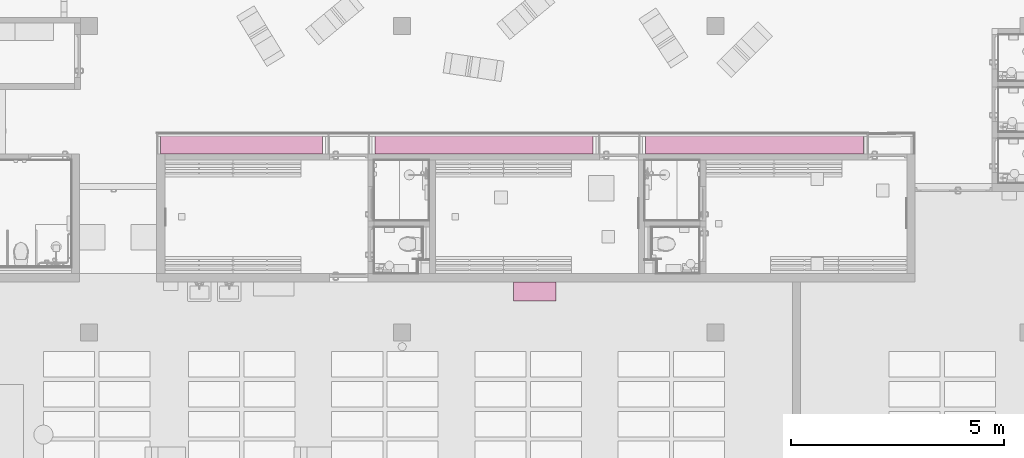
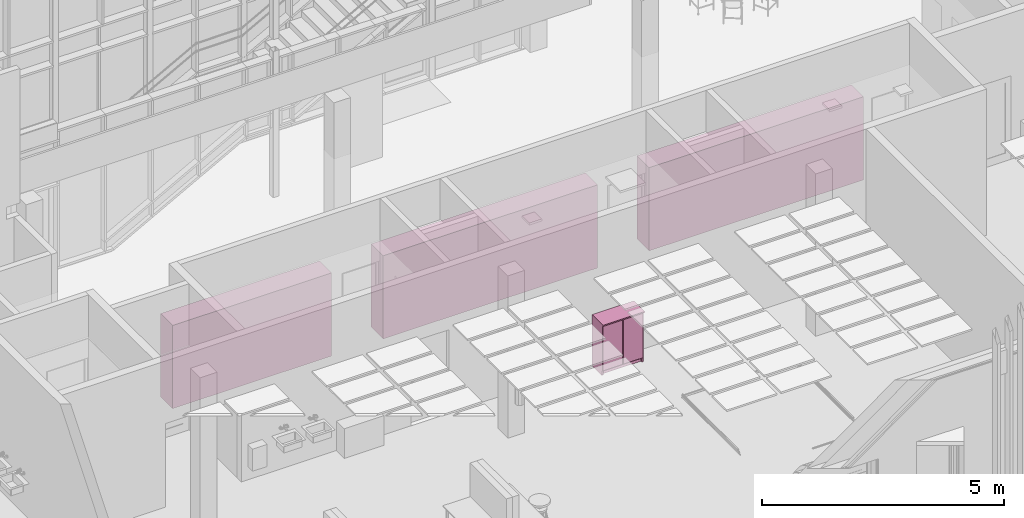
# One storey, part 282 of 301: 4 furnishings.
"""IFC2X3 building model written with IfcOpenShell, lengths in millimetres."""

from ifc_helpers import new_model, entity, si_unit, converted_unit, derived_unit, money_unit, direction, frame, origin_with_axes, place, context, subcontext, project, spatial, faceted_brep, material, type_object, element, save


model = new_model("IFC2X3")

# Units and contexts
model_context = context("Model", 3, precision=0.01, world=origin_with_axes(), true_north=direction((0.0, 1.0)))
body_context = subcontext(model_context, "Body", "Model", "MODEL_VIEW")
ifc_project = project(units=[si_unit("LENGTHUNIT", "METRE", prefix="MILLI"), si_unit("AREAUNIT", "SQUARE_METRE"), si_unit("VOLUMEUNIT", "CUBIC_METRE"), converted_unit("PLANEANGLEUNIT", "DEGREE", entity("IfcPlaneAngleMeasure", 0.0174532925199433), si_unit("PLANEANGLEUNIT", "RADIAN"), dimensions=[0, 0, 0, 0, 0, 0, 0]), money_unit("EUR"), converted_unit("TIMEUNIT", "Year", entity("IfcTimeMeasure", 31557600.0), si_unit("TIMEUNIT", "SECOND"), dimensions=[0, 0, 1, 0, 0, 0, 0]), si_unit("MASSUNIT", "GRAM", prefix="KILO"), si_unit("THERMODYNAMICTEMPERATUREUNIT", "DEGREE_CELSIUS"), si_unit("LUMINOUSINTENSITYUNIT", "LUMEN"), si_unit("ENERGYUNIT", "JOULE", prefix="MEGA"), derived_unit("THERMALCONDUCTANCEUNIT", [(si_unit("POWERUNIT", "WATT"), 1), (si_unit("LENGTHUNIT", "METRE"), -1), (si_unit("THERMODYNAMICTEMPERATUREUNIT", "KELVIN"), -1)]), derived_unit("SPECIFICHEATCAPACITYUNIT", [(si_unit("ENERGYUNIT", "JOULE"), 1), (si_unit("MASSUNIT", "GRAM", prefix="KILO"), -1), (si_unit("THERMODYNAMICTEMPERATUREUNIT", "KELVIN"), -1)]), derived_unit("MASSDENSITYUNIT", [(si_unit("MASSUNIT", "GRAM", prefix="KILO"), 1), (si_unit("VOLUMEUNIT", "CUBIC_METRE"), -1)])], contexts=[model_context])

# Site, building, storey
site_placement = place(None, frame((0.0, 0.0, 8650.0), z_axis=(0.0, 0.0, 1.0), x_axis=(1.0, 0.0, 0.0)))
site = spatial("IfcSite", under=ifc_project, at=site_placement, Name="43301:001:0844", CompositionType="ELEMENT")
building_placement = place(site_placement, origin_with_axes())
building = spatial("IfcBuilding", under=site, at=building_placement, Name="Kuressaare Ametikooli tuulikute mehaanikute õppekorpus", CompositionType="ELEMENT")
storey_placement = place(building_placement, origin_with_axes())
storey = spatial("IfcBuildingStorey", under=building, at=storey_placement, Name="1.korrus", CompositionType="ELEMENT", Elevation=0.0)

# Furnishings
furniture_type_1 = type_object("IfcFurnitureType", Name="Cupboard 27", AssemblyPlace="NOTDEFINED")
furnishing_1_placement = place(storey_placement, frame((113831.8856919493, 17314.81655876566, 0.0), z_axis=(0.0, 0.0, 1.0), x_axis=(1.0, 0.0, 0.0)))
element("IfcFurnishingElement", 1, at=furnishing_1_placement, inside=storey, type_object=furniture_type_1, Name="KK", context=body_context, shape_type="Brep", body=[
    faceted_brep([(980.0, 450.0, 120.0), (980.0, 450.0, 1245.0), (980.0, 430.0, 1245.0), (980.0, 430.0, 120.0), (20.00000000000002, 450.0, 120.0), (20.00000000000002, 450.0, 1245.0), (20.00000000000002, 430.0, 1245.0), (20.00000000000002, 430.0, 120.0)], [[[0, 1, 2, 3]], [[4, 5, 1, 0]], [[1, 5, 6, 2]], [[3, 2, 6, 7]], [[0, 3, 7, 4]], [[7, 6, 5, 4]]]),
    faceted_brep([(0.0, 49.99999999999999, 100.0), (0.0, 450.0, 100.0), (20.00000000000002, 450.0, 100.0), (20.00000000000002, 49.99999999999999, 100.0), (0.0, 49.99999999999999, 1265.0), (0.0, 450.0, 1265.0), (20.00000000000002, 450.0, 1265.0), (20.00000000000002, 49.99999999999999, 1265.0)], [[[0, 1, 2, 3]], [[0, 4, 5, 1]], [[1, 5, 6, 2]], [[2, 6, 7, 3]], [[3, 7, 4, 0]], [[7, 6, 5, 4]]]),
    faceted_brep([(980.0, 49.99999999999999, 100.0), (980.0, 450.0, 100.0), (1000.0, 450.0, 100.0), (1000.0, 49.99999999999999, 100.0), (980.0, 49.99999999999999, 1265.0), (980.0, 450.0, 1265.0), (1000.0, 450.0, 1265.0), (1000.0, 49.99999999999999, 1265.0)], [[[0, 1, 2, 3]], [[0, 4, 5, 1]], [[1, 5, 6, 2]], [[2, 6, 7, 3]], [[3, 7, 4, 0]], [[7, 6, 5, 4]]]),
    faceted_brep([(20.00000000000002, 49.99999999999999, 100.0), (20.00000000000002, 450.0, 100.0), (980.0, 450.0, 100.0), (980.0, 49.99999999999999, 100.0), (20.00000000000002, 49.99999999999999, 120.0), (20.00000000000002, 450.0, 120.0), (980.0, 450.0, 120.0), (980.0, 49.99999999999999, 120.0)], [[[0, 1, 2, 3]], [[0, 4, 5, 1]], [[1, 5, 6, 2]], [[2, 6, 7, 3]], [[3, 7, 4, 0]], [[7, 6, 5, 4]]]),
    faceted_brep([(20.00000000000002, 49.99999999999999, 1245.0), (20.00000000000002, 450.0, 1245.0), (980.0, 450.0, 1245.0), (980.0, 49.99999999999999, 1245.0), (20.00000000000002, 49.99999999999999, 1265.0), (20.00000000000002, 450.0, 1265.0), (980.0, 450.0, 1265.0), (980.0, 49.99999999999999, 1265.0)], [[[0, 1, 2, 3]], [[0, 4, 5, 1]], [[1, 5, 6, 2]], [[2, 6, 7, 3]], [[3, 7, 4, 0]], [[7, 6, 5, 4]]]),
    faceted_brep([(0.0, 450.0, 1265.0), (0.0, 0.0, 1265.0), (0.0, 0.0, 1295.0), (0.0, 450.0, 1295.0), (1000.0, 450.0, 1265.0), (1000.0, 0.0, 1265.0), (1000.0, 0.0, 1295.0), (1000.0, 450.0, 1295.0)], [[[0, 1, 2, 3]], [[0, 4, 5, 1]], [[1, 5, 6, 2]], [[3, 2, 6, 7]], [[4, 0, 3, 7]], [[5, 4, 7, 6]]]),
    faceted_brep([(960.0, 450.0, 0.0), (960.0, 450.0, 100.0), (960.0, 410.0000000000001, 100.0), (960.0, 410.0000000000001, 0.0), (39.99999999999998, 450.0, 0.0), (39.99999999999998, 450.0, 100.0), (39.99999999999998, 410.0000000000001, 100.0), (39.99999999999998, 410.0000000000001, 0.0)], [[[0, 1, 2, 3]], [[4, 5, 1, 0]], [[1, 5, 6, 2]], [[3, 2, 6, 7]], [[0, 3, 7, 4]], [[7, 6, 5, 4]]]),
    faceted_brep([(1000.0, 450.0, 0.0), (1000.0, 450.0, 100.0), (1000.0, 49.99999999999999, 100.0), (1000.0, 49.99999999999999, 0.0), (960.0, 450.0, 0.0), (960.0, 450.0, 100.0), (960.0, 49.99999999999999, 100.0), (960.0, 49.99999999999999, 0.0)], [[[0, 1, 2, 3]], [[4, 5, 1, 0]], [[1, 5, 6, 2]], [[3, 2, 6, 7]], [[0, 3, 7, 4]], [[7, 6, 5, 4]]]),
    faceted_brep([(39.99999999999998, 450.0, 0.0), (39.99999999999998, 450.0, 100.0), (39.99999999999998, 49.99999999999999, 100.0), (39.99999999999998, 49.99999999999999, 0.0), (0.0, 450.0, 0.0), (0.0, 450.0, 100.0), (0.0, 49.99999999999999, 100.0), (0.0, 49.99999999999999, 0.0)], [[[0, 1, 2, 3]], [[4, 5, 1, 0]], [[1, 5, 6, 2]], [[3, 2, 6, 7]], [[0, 3, 7, 4]], [[7, 6, 5, 4]]]),
    faceted_brep([(960.0, 129.9999999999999, 0.0), (960.0, 129.9999999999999, 100.0), (960.0, 89.99999999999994, 100.0), (960.0, 89.99999999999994, 0.0), (39.99999999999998, 129.9999999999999, 0.0), (39.99999999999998, 129.9999999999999, 100.0), (39.99999999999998, 89.99999999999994, 100.0), (39.99999999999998, 89.99999999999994, 0.0)], [[[0, 1, 2, 3]], [[4, 5, 1, 0]], [[1, 5, 6, 2]], [[3, 2, 6, 7]], [[0, 3, 7, 4]], [[7, 6, 5, 4]]]),
    faceted_brep([(980.0, 430.0, 386.25), (980.0, 430.0, 406.25), (980.0, 49.99999999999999, 406.25), (980.0, 49.99999999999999, 386.25), (20.00000000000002, 430.0, 386.25), (20.00000000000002, 430.0, 406.25), (20.00000000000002, 49.99999999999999, 406.25), (20.00000000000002, 49.99999999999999, 386.25)], [[[0, 1, 2, 3]], [[4, 5, 1, 0]], [[1, 5, 6, 2]], [[3, 2, 6, 7]], [[0, 3, 7, 4]], [[7, 6, 5, 4]]]),
    faceted_brep([(980.0, 430.0, 672.4999999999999), (980.0, 430.0, 692.4999999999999), (980.0, 49.99999999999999, 692.4999999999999), (980.0, 49.99999999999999, 672.4999999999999), (20.00000000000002, 430.0, 672.4999999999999), (20.00000000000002, 430.0, 692.4999999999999), (20.00000000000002, 49.99999999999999, 692.4999999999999), (20.00000000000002, 49.99999999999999, 672.4999999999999)], [[[0, 1, 2, 3]], [[4, 5, 1, 0]], [[1, 5, 6, 2]], [[3, 2, 6, 7]], [[0, 3, 7, 4]], [[7, 6, 5, 4]]]),
    faceted_brep([(980.0, 430.0, 958.7499999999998), (980.0, 430.0, 978.7499999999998), (980.0, 49.99999999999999, 978.7499999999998), (980.0, 49.99999999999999, 958.7499999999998), (20.00000000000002, 430.0, 958.7499999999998), (20.00000000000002, 430.0, 978.7499999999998), (20.00000000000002, 49.99999999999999, 978.7499999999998), (20.00000000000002, 49.99999999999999, 958.7499999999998)], [[[0, 1, 2, 3]], [[4, 5, 1, 0]], [[1, 5, 6, 2]], [[3, 2, 6, 7]], [[0, 3, 7, 4]], [[7, 6, 5, 4]]]),
    faceted_brep([(989.5, 49.99999999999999, 110.4999999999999), (500.5000000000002, 49.99999999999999, 110.4999999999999), (500.5000000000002, 50.00000000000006, 1254.5), (989.5, 50.00000000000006, 1254.5), (989.5000003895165, 39.99999999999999, 110.4999996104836), (500.5000003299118, 39.99999999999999, 110.4999996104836), (500.5000003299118, 40.00000000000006, 1254.499999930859), (989.5000003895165, 40.00000000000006, 1254.499999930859), (979.5000006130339, 30.0000002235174, 120.4999993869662), (510.5000001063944, 30.0000002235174, 120.4999993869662), (510.5000001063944, 30.00000022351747, 1244.500000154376), (979.5000006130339, 30.00000022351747, 1244.500000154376)], [[[0, 1, 2, 3]], [[0, 4, 5, 1]], [[1, 5, 6, 2]], [[2, 6, 7, 3]], [[3, 7, 4, 0]], [[4, 8, 9, 5]], [[5, 9, 10, 6]], [[6, 10, 11, 7]], [[7, 11, 8, 4]], [[10, 9, 8, 11]]]),
    faceted_brep([(499.5, 49.99999999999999, 110.4999999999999), (10.50000000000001, 49.99999999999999, 110.4999999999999), (10.50000000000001, 50.00000000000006, 1254.5), (499.5, 50.00000000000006, 1254.5), (499.5000003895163, 39.99999999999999, 110.4999996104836), (10.50000032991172, 39.99999999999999, 110.4999996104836), (10.50000032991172, 40.00000000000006, 1254.499999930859), (499.5000003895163, 40.00000000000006, 1254.499999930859), (489.5000006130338, 30.0000002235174, 120.4999993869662), (20.5000001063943, 30.0000002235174, 120.4999993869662), (20.5000001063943, 30.00000022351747, 1244.500000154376), (489.5000006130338, 30.00000022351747, 1244.500000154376)], [[[0, 1, 2, 3]], [[0, 4, 5, 1]], [[1, 5, 6, 2]], [[2, 6, 7, 3]], [[3, 7, 4, 0]], [[4, 8, 9, 5]], [[5, 9, 10, 6]], [[6, 10, 11, 7]], [[7, 11, 8, 4]], [[10, 9, 8, 11]]]),
])
ifc_material = material(Name="Air Space")
furniture_type_2 = type_object("IfcFurnitureType", Name="Air Space 2100", AssemblyPlace="NOTDEFINED")
furnishing_2_placement = place(storey_placement, frame((105545.5119389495, 20764.83624818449, 0.0), z_axis=(0.0, 0.0, 1.0), x_axis=(1.0, 0.0, 0.0)))
element("IfcFurnishingElement", 2, at=furnishing_2_placement, inside=storey, type_object=furniture_type_2, material=ifc_material, Name="LO3", context=body_context, shape_type="Brep", body=[
    faceted_brep([(0.0, 0.0, 0.0), (3799.999999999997, 0.0, 0.0), (3799.999999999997, 0.0, 2100.0), (0.0, 0.0, 2100.0), (0.0, 499.9999856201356, 0.0), (3799.999999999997, 499.9999856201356, 0.0), (3799.999999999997, 499.9999856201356, 2100.0), (0.0, 499.9999856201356, 2100.0)], [[[0, 1, 2, 3]], [[0, 4, 5, 1]], [[1, 5, 6, 2]], [[3, 2, 6, 7]], [[4, 0, 3, 7]], [[5, 4, 7, 6]]]),
])
for number, where, z_axis, x_axis, name in (
    (3, (115695.5119389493, 20764.83777519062, 0.0), (0.0, 0.0, 1.0), (1.0, 0.0, 0.0), "LO2"),
    (4, (122045.2600955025, 20764.83864479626, 0.0), (0.0, 0.0, 1.0), (1.0, 0.0, 0.0), "LO1"),
):
    element("IfcFurnishingElement", number, at=place(storey_placement, frame(where, z_axis=z_axis, x_axis=x_axis)), inside=storey, type_object=furniture_type_2, material=ifc_material, Name=name, context=body_context, shape_type="Brep", body=[
        faceted_brep([(0.0, 0.0, 0.0), (-0.0001369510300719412, 499.9993193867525, 0.0), (-0.0001369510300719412, 499.9993193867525, 2100.0), (0.0, 0.0, 2100.0), (-5119.999999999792, -0.001402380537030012, 0.0), (-5120.000136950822, 499.9979170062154, 0.0), (-5120.000136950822, 499.9979170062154, 2100.0), (-5119.999999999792, -0.001402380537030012, 2100.0)], [[[0, 1, 2, 3]], [[0, 4, 5, 1]], [[1, 5, 6, 2]], [[3, 2, 6, 7]], [[4, 0, 3, 7]], [[5, 4, 7, 6]]]),
    ])

save(model, "model.ifc")
